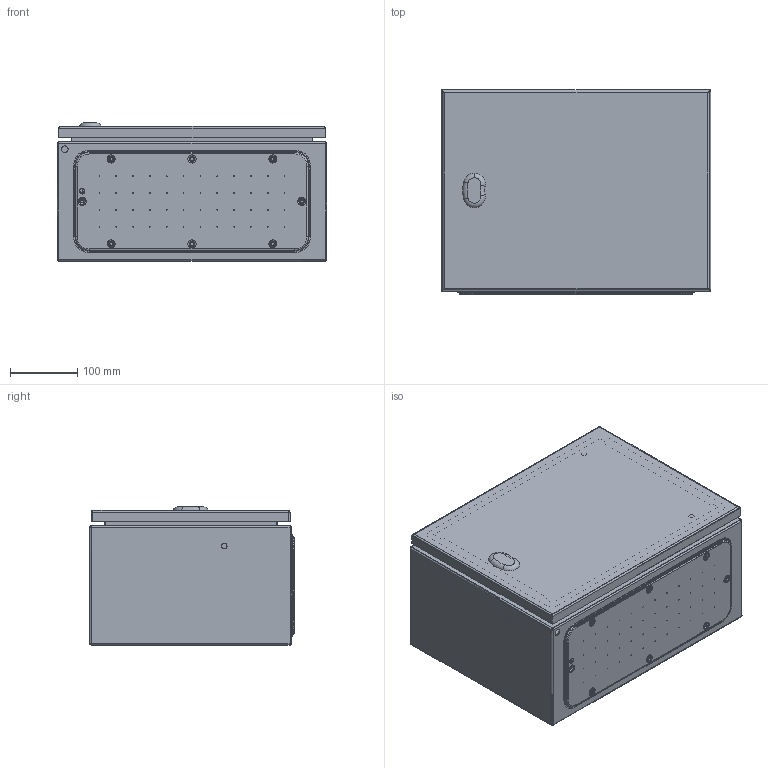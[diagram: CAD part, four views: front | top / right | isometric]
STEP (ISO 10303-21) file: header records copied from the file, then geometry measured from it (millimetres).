
FILE_DESCRIPTION (( 'STEP AP203' ), '1' );
FILE_NAME ('0400x0300x0200 dx.step', '2021-09-07T06:40:19', ( '' ), ( '' ), 'SwSTEP 2.0', 'SolidWorks 2021', '' );
FILE_SCHEMA (( 'CONFIG_CONTROL_DESIGN' ));
Length unit declared in the file: millimetre
Products named in the file (7): AR_ECOR_Piastra_06; AR_ECOR_montaggio_porta_singola_0400x0300; AR_ECOR_chiusura_std_STD; AR_ECOR_involucro_0400x0300x0200; AR_ECOR_porta_singola_0400x0300; AR_ECOR_flangia IC_04; 0400x0300x0200 dx
Assembly tree (6 placements, depth 3):
  0400x0300x0200 dx
    AR_ECOR_involucro_0400x0300x0200
    AR_ECOR_montaggio_porta_singola_0400x0300
      AR_ECOR_porta_singola_0400x0300
      AR_ECOR_chiusura_std_STD
    AR_ECOR_flangia IC_04
    AR_ECOR_Piastra_06
Bounding box: 400 x 304 x 205 mm (x, y, z)
Volume: 1118861.3 mm3; surface area: 1360699.9 mm2
Topology: 5 solids, 5 shells, 693 faces, 1674 edges, 1048 vertices
Faces by surface type: cylinder 339, plane 209, cone 60, torus 41, bspline 28, sphere 16
Entity records: 22003 total; most frequent: CARTESIAN_POINT 4616, DIRECTION 3721, ORIENTED_EDGE 3308, EDGE_CURVE 1654, AXIS2_PLACEMENT_3D 1488, VERTEX_POINT 1048, EDGE_LOOP 882, CIRCLE 813
